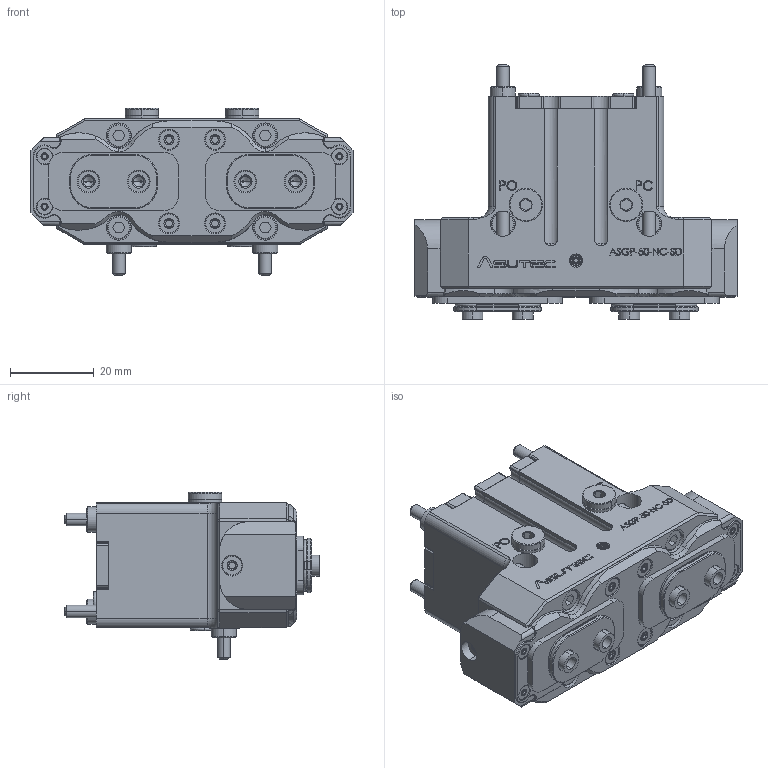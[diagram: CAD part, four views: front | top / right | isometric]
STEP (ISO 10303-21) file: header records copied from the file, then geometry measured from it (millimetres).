
FILE_DESCRIPTION (( 'STEP AP203' ), '1' );
FILE_NAME ('ASUTEC_ASGP-50-NC-SD.STEP', '2019-11-01T06:19:08', ( '' ), ( '' ), 'SwSTEP 2.0', 'SolidWorks 2015', '' );
FILE_SCHEMA (( 'CONFIG_CONTROL_DESIGN' ));
Length unit declared in the file: millimetre
Products named in the file (11): Staudicht-Backe ASGP-50; Zentrierhuelse-konfigurierbar_D6d4.2L5; 12000092 O-Ring 5x1_Flanschdichtung <Standard>; 12000094 O-Ring 3x1_Flansch <Standard>; 14010075 Blindsstopfen Innensechskant; 10000094 M3x50 DIN912; Grundgehäuse-ASGP-50-NX_Step <Standard>; 10000090 M3x30 DIN912; Greiferbacke ASGP-50; ASUTEC_ASGP-50-NC-SD; Staudicht-Abdeckung ASGP-50 
Assembly tree (22 placements, depth 2):
  ASUTEC_ASGP-50-NC-SD
    Grundgehäuse-ASGP-50-NX_Step <Standard>
    Greiferbacke ASGP-50  x2
    Staudicht-Abdeckung ASGP-50 
    Staudicht-Backe ASGP-50  x2
    Zentrierhuelse-konfigurierbar_D6d4.2L5  x4
    12000092 O-Ring 5x1_Flanschdichtung <Standard>  x2
    12000094 O-Ring 3x1_Flansch <Standard>  x2
    14010075 Blindsstopfen Innensechskant  x2
    10000094 M3x50 DIN912  x4
    10000090 M3x30 DIN912  x2
Bounding box: 77 x 60.8 x 40 mm (x, y, z)
Volume: 73111.8 mm3; surface area: 33801.5 mm2
Topology: 22 solids, 22 shells, 2317 faces, 5736 edges, 3614 vertices
Faces by surface type: cylinder 832, plane 718, cone 490, bspline 165, torus 112
Entity records: 74911 total; most frequent: CARTESIAN_POINT 28218, ORIENTED_EDGE 9880, DIRECTION 8618, EDGE_CURVE 4940, AXIS2_PLACEMENT_3D 3142, VERTEX_POINT 3138, LINE 2334, VECTOR 2334
